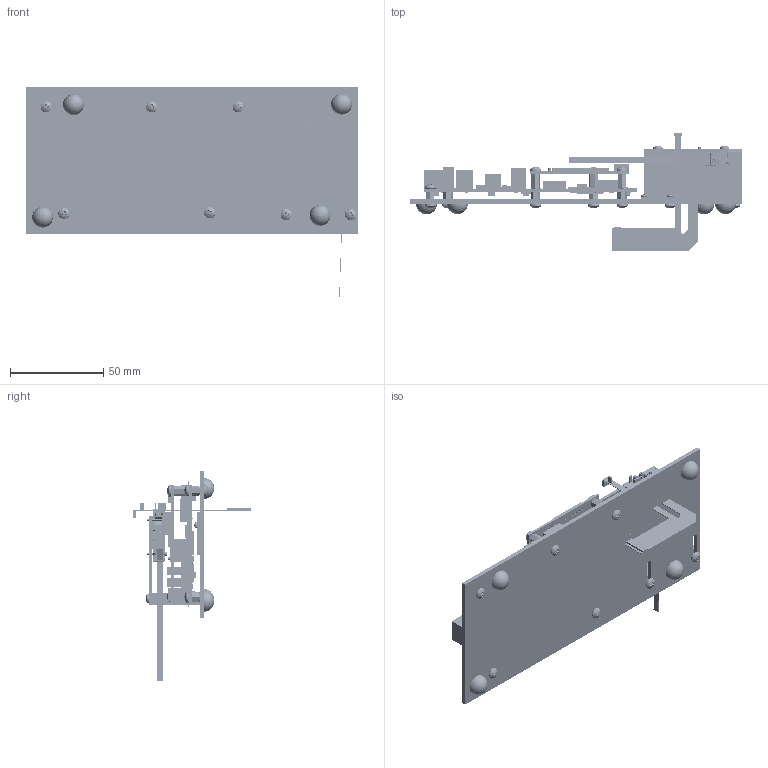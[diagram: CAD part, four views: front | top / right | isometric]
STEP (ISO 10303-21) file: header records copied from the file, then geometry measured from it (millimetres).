
FILE_DESCRIPTION (( 'STEP AP214' ), '1' );
FILE_NAME ('DLP2010EVM-LC_Top_Assembly_RevA.STEP', '2018-04-25T18:37:11', ( '' ), ( '' ), 'SwSTEP 2.0', 'SolidWorks 2016', '' );
FILE_SCHEMA (( 'AUTOMOTIVE_DESIGN' ));
Length unit declared in the file: millimetre
Products named in the file (226): TSSOP16_PW_LOGXCVRSN74AVC4T774PW4_0_TSS; 2514164; JST_S4BEH_EMHDR4P1R2X_JST_S4BEH_S4B; PB016126799_1_2_1; 001U9_ASM_ASM_ASM_1_ASM_ASM_1_A_ASM; EDI0113009_ASM_1_ASM_ASM_2_ASM_ASM; LED_ANY_4_15_1_1; 0402_PASCAPNPLARGE_0402_390NF; ECN0313009_AF1_ASM_1_ASM_ASM_2__ASM; EDI0114009_ASM_15_ASM_ASM_1_ASM_ASM; IND2_XAL8080_COILCRAFT_PASINDUCTOR LARGE_IND2_XAL808; 2514163; COOPERBUSSMANN_DR74_PASINDUCTOR LARGE_COOPERBUSSM; PB016126599_1_1; 001U9_ASM_41_ASM_ASM_2_ASM_ASM__ASM; TSSOP_38_DA_RPDSOG_MSP430F2274_TSSOP_38_DA_RPDSO; CONVERSION_LAYER_GREEN_4_1_1; MATE_FOR_BL509N-06S01; CASTING_ANY_4_15_1_1; 0402_PASCAPNPLARGE_0402_2200PF; HDR4P_1R_EMHDR4P1R2X_HDR4P_1R_HDR4P; 6_NONE_1_1_AF1_1_1; ASM0002_ASM_ASM_1_ASM_ASM_1_ASM_ASM; HDR2X1_RA_2POS SMT HEADER 2_054MM_HDR2X1; U_6_DCK_TMP_134645_U_6_DCK_LOGBUFOPEN; PB016126199_1_1_1; PB016122599_2_1_1; SOT_523_ANAMOSFETNCHEDMN26USOT23; LED_ANY_4_1_1; PANASONIC_AXT540124; MOULD_ANY_4_15_1_1; 0402_PASRLARGE_0402_2M; TSW10307GS_EMJMP3P1R_TSW10307GS_HDR; EDI0114009_ASM_1_ASM_ASM_1_ASM_ASM; NONE-5667_5_15_1_1; DLP2010EVM-LC_Top_Assembly_RevA; HDR8X1_EMHDR8P1R2X_1_HDR8X1_EMHDR; PB016126199_1_1; PB016127099_14_1_1; SOT23_PASDIODEBAV70SOT_23_3_SOT23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
Assembly tree (339 placements, depth 13):
  DLP2010EVM-LC_Top_Assembly_RevA
    2514163
    2514164
    2514165
    PHOTB0161
      AOWVGA-1230_ASM_ASM_ASM
        AOWVGA-1230_ASM_2_ASM_ASM
          001U9_ASM_ASM_ASM_1_ASM_ASM
            001U9_ASM_2_ASM_ASM_2_ASM_ASM
              PB0161300U9_ASM_2_ASM_ASM_1_ASM_ASM
                PB016131199_2_1
                PB016131199_2_1_1
              PB0161400U9_ASM_1_ASM_ASM_1_ASM_ASM
                CERAMIC-2WVGA-S244_1_1
                WINDOW-2WVGA-S244_1_1
              PB0161501U9_ASM_1_ASM_ASM_1_ASM_ASM
                EDI0113009_ASM_1_ASM_ASM_2_ASM_ASM
                  WIRE_BOND_LED_ANY_ASM_4_ASM_1_A_ASM
                  ESD_ANY_4_1_1
                  LEADFRAME_CONVERSION_GREEN_ANY__ASM
                  MOULD_ANY_4_1_1
                  CASTING_ANY_4_1_1
                  LED_ANY_4_1_1
                  CONVERSION_LAYER_GREEN_4_1_1
                EBO0627009_1_1
                EVR0301009_1_1
                ECN0313009_AF0_ASM_1_ASM_ASM_2__ASM
                  6___J3_1_1_1_1
                  ___J4_1_1_1_1
                  6_NONE_1_1_AF0_1_1
                  6___J2_1_2_1_1
              PB0161502U9_ASM_1_ASM_ASM_1_ASM_ASM
                EBO0628009_1_1
                EDI0114009_ASM_1_ASM_ASM_1_ASM_ASM
                  ESD_CHIPOPTOTECSD31060G-HELIOSP  x2
                  THINGAN_750_STANDARD_ANY_5_1_1  x2
                  CERHELIOSMINI2CHIP_STANDARD_ANY_ASM
                ECN0313009_AF1_ASM_1_ASM_ASM_2__ASM
                  6___J3_1_1_1_1
                  ___J4_1_1_1_1
                  6_NONE_1_1_AF1_1_1
                  6___J2_1_2_1_1
              PB0161600U9_ASM_ASM_ASM_1_ASM_A_ASM
                PB0161600U9_ASM_ASM_8_ASM_1_ASM_ASM
                  PB0161600U9_ASM_8_ASM_7_ASM_1_A_ASM
              PB016126399_1_1
              PB016122499_1_1
              PB016126899_1_1
              PB016126999_1_1
              PB016127199_1_1
              PB016126499_1_1_1  x2
              PB016126499_1_1  x2
              PB015420299_1_1
              PB016126199_1_1
              PB016126199_1_1_1
              PB016126599_1_1
              PB016126799_1_2_1
              PB016126799_1_2
              PB016127799_1_1
              PB016122599_1_1  x3
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Bounding box: 177.93 x 63.42 x 112.91 mm (x, y, z)
Volume: 81113.5 mm3; surface area: 102433.7 mm2
Topology: 293 solids, 323 shells, 12674 faces, 35475 edges, 23465 vertices
Faces by surface type: plane 6445, cylinder 5019, bspline 618, cone 480, torus 72, sphere 40
Entity records: 350759 total; most frequent: CARTESIAN_POINT 89539, ORIENTED_EDGE 50165, DIRECTION 45511, EDGE_CURVE 25146, VECTOR 16813, LINE 16813, VERTEX_POINT 16652, AXIS2_PLACEMENT_3D 14349
